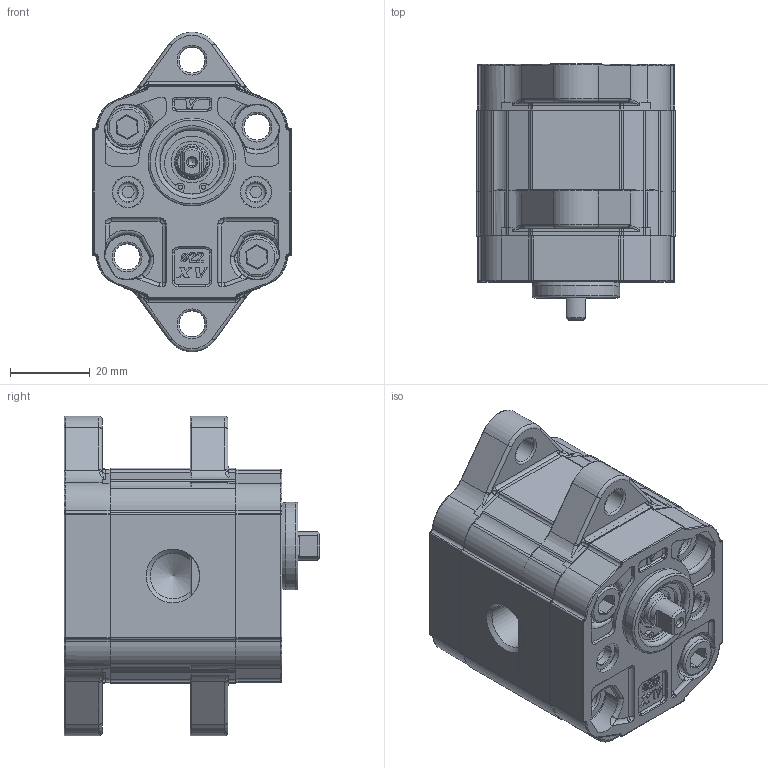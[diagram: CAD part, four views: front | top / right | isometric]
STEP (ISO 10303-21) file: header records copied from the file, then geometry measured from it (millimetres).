
FILE_DESCRIPTION( ( 'Unknown' ), '1' );
FILE_NAME( 'P:/montaggio_easy/output/STP/X0T0412BBBA.stp', 'Unknown', ( 'Unknown' ), ( 'Unknown' ), 'PSStep 14.0', 'Unknown', ' ' );
FILE_SCHEMA( ( 'AUTOMOTIVE_DESIGN { 1 0 10303 214 1 1 1 1 }' ) );
Length unit declared in the file: millimetre
Products named in the file (5): Assem1; X0T12; 0B; X0BBH31,5; XT012-A
Bounding box: 50 x 64 x 79.95 mm (x, y, z)
Volume: 244024.5 mm3; surface area: 71602.5 mm2
Topology: 8 solids, 14 shells, 1998 faces, 5142 edges, 3242 vertices
Faces by surface type: plane 770, cylinder 664, torus 268, bspline 112, cone 96, extrusion 72, sphere 16
Full cylindrical faces by diameter (mm): 1.053 x4, 2 x4, 3.233 x2, 5 x8, 6.107 x2, 6.5 x16, 7.16 x4, 7.5 x4, 7.9 x8, 7.92 x2, 8 x4, 9.318 x2, 10 x4, 10.445 x2, 11 x2, 11.445 x4, 14 x4, 16 x4, 16.2 x2, 16.8 x2, 22 x4
Entity records: 41820 total; most frequent: CARTESIAN_POINT 9928, DIRECTION 5081, ORIENTED_EDGE 4856, EDGE_CURVE 2428, AXIS2_PLACEMENT_3D 1942, VERTEX_POINT 1586, VECTOR 1197, EDGE_LOOP 1178
